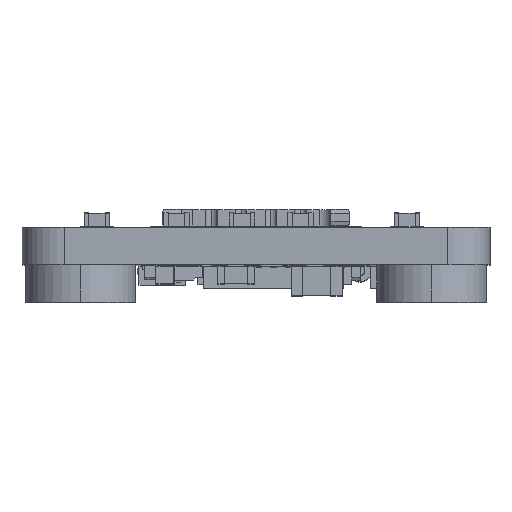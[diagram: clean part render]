
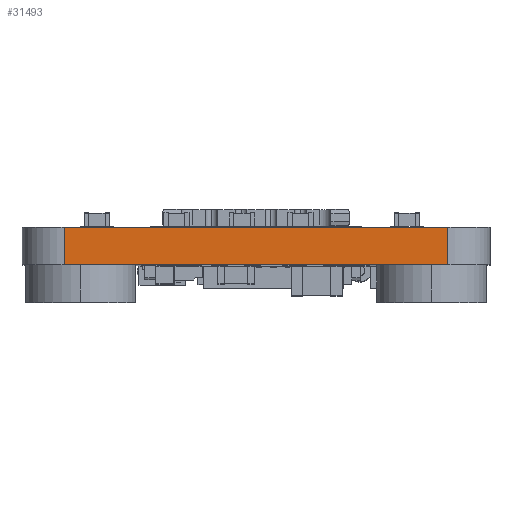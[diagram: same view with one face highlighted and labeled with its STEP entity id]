
A CAD part, top view. The second image highlights one B-rep face of the part: STEP entity #31493.
In plain terms, the highlighted planar face has unit normal (0, 0, 1).
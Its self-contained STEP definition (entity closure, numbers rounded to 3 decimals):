
#2098 = FACE_OUTER_BOUND ( 'NONE', #15741, .T. ) ;
#4318 = LINE ( 'NONE', #40756, #8151 ) ;
#4859 = DIRECTION ( 'NONE',  ( 0., -1., 0. ) ) ;
#5027 = LINE ( 'NONE', #37662, #8233 ) ;
#5090 = CARTESIAN_POINT ( 'NONE',  ( 8.2, 0., 10. ) ) ;
#5741 = AXIS2_PLACEMENT_3D ( 'NONE', #13609, #26113, #45602 ) ;
#5970 = VERTEX_POINT ( 'NONE', #34098 ) ;
#6175 = DIRECTION ( 'NONE',  ( 0., 1., 0. ) ) ;
#8150 = LINE ( 'NONE', #43737, #48400 ) ;
#8151 = VECTOR ( 'NONE', #4859, 1000. ) ;
#8233 = VECTOR ( 'NONE', #6175, 1000. ) ;
#9179 = CARTESIAN_POINT ( 'NONE',  ( -8.2, 1.6, 10. ) ) ;
#10180 = EDGE_CURVE ( 'NONE', #38292, #15397, #5027, .T. ) ;
#13609 = CARTESIAN_POINT ( 'NONE',  ( -10., 1.6, 10. ) ) ;
#15397 = VERTEX_POINT ( 'NONE', #26677 ) ;
#15741 = EDGE_LOOP ( 'NONE', ( #16578, #16682, #40303, #31265 ) ) ;
#16578 = ORIENTED_EDGE ( 'NONE', *, *, #27947, .F. ) ;
#16682 = ORIENTED_EDGE ( 'NONE', *, *, #50421, .T. ) ;
#20181 = DIRECTION ( 'NONE',  ( 1., 0., 0. ) ) ;
#25051 = VECTOR ( 'NONE', #20181, 1000. ) ;
#26113 = DIRECTION ( 'NONE',  ( 0., 0., -1. ) ) ;
#26677 = CARTESIAN_POINT ( 'NONE',  ( 8.2, 1.6, 10. ) ) ;
#27947 = EDGE_CURVE ( 'NONE', #39644, #15397, #28894, .T. ) ;
#28672 = CARTESIAN_POINT ( 'NONE',  ( -10., 1.6, 10. ) ) ;
#28894 = LINE ( 'NONE', #28672, #25051 ) ;
#31265 = ORIENTED_EDGE ( 'NONE', *, *, #10180, .T. ) ;
#31493 = ADVANCED_FACE ( 'NONE', ( #2098 ), #33677, .F. ) ;
#31595 = DIRECTION ( 'NONE',  ( 1., 0., 0. ) ) ;
#33570 = EDGE_CURVE ( 'NONE', #5970, #38292, #8150, .T. ) ;
#33677 = PLANE ( 'NONE',  #5741 ) ;
#34098 = CARTESIAN_POINT ( 'NONE',  ( -8.2, 0., 10. ) ) ;
#37662 = CARTESIAN_POINT ( 'NONE',  ( 8.2, 1.6, 10. ) ) ;
#38292 = VERTEX_POINT ( 'NONE', #5090 ) ;
#39644 = VERTEX_POINT ( 'NONE', #9179 ) ;
#40303 = ORIENTED_EDGE ( 'NONE', *, *, #33570, .T. ) ;
#40756 = CARTESIAN_POINT ( 'NONE',  ( -8.2, 1.6, 10. ) ) ;
#43737 = CARTESIAN_POINT ( 'NONE',  ( -10., 0., 10. ) ) ;
#45602 = DIRECTION ( 'NONE',  ( -1., 0., 0. ) ) ;
#48400 = VECTOR ( 'NONE', #31595, 1000. ) ;
#50421 = EDGE_CURVE ( 'NONE', #39644, #5970, #4318, .T. ) ;
